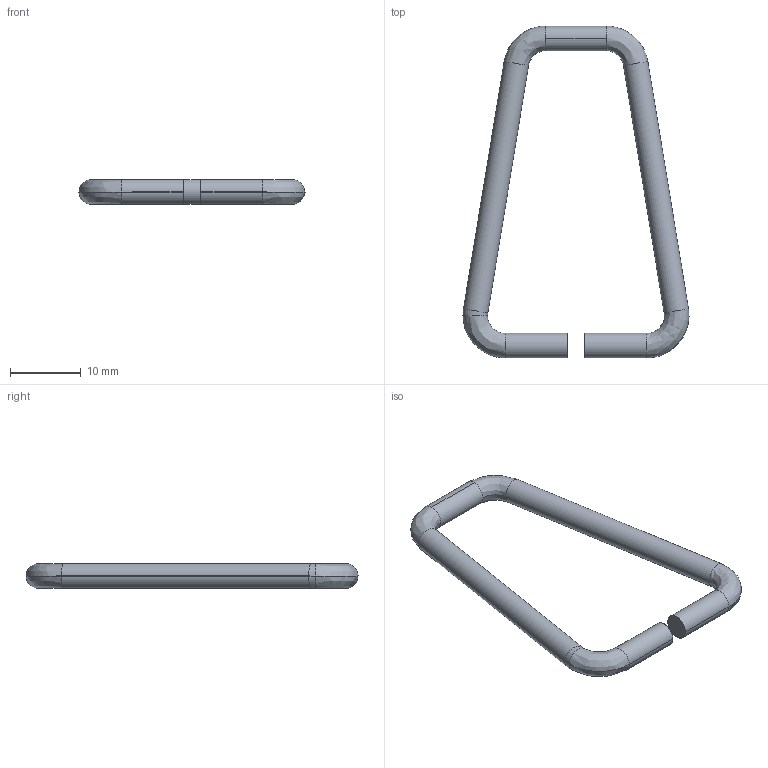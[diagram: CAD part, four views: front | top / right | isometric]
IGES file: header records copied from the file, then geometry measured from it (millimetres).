
Start section: SolidWorks IGES FILE using analytic representation for surfaces
Global section: file name: C:\Documents and Settings\brechard\Bureau\GO 563\537.200.00.IGS; native system: SolidWorks 2001Plus by SolidWorks Corporation; preprocessor: Version 5.3; author: brechard; date: 050126.100809; units: millimetre
Bounding box: 32 x 47 x 3.5 mm (x, y, z)
Surface area: 1378.8 mm2 (no closed solid volume)
Topology: 0 solids, 0 shells, 22 faces, 152 edges, 152 vertices
Faces by surface type: bspline 12, revolution 10
